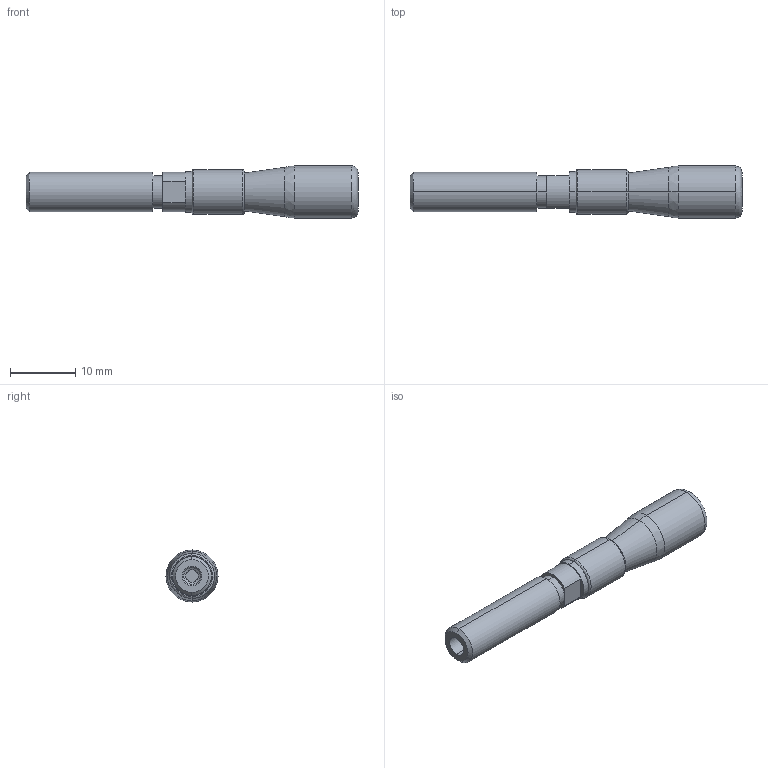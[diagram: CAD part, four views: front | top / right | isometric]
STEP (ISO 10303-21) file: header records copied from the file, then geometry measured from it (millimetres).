
FILE_DESCRIPTION( (''), '2;1');
FILE_NAME ('TGMX25.1684.RBP006RCA_22704.stp','2015-03-30T15:10:19',(''),(''),'spGate 11.3.7','spGate','');
FILE_SCHEMA (('AUTOMOTIVE_DESIGN'));
Length unit declared in the file: millimetre
Bounding box: 51 x 8 x 8 mm (x, y, z)
Volume: 1650 mm3; surface area: 1389.1 mm2
Topology: 1 solids, 1 shells, 46 faces, 94 edges, 56 vertices
Faces by surface type: cylinder 20, bspline 16, plane 10
Entity records: 2207 total; most frequent: CARTESIAN_POINT 504, ORIENTED_EDGE 188, DIRECTION 172, COLOUR_RGB 141, PRESENTATION_STYLE_ASSIGNMENT 141, STYLED_ITEM 141, EDGE_CURVE 94, DRAUGHTING_PRE_DEFINED_CURVE_FONT 94
